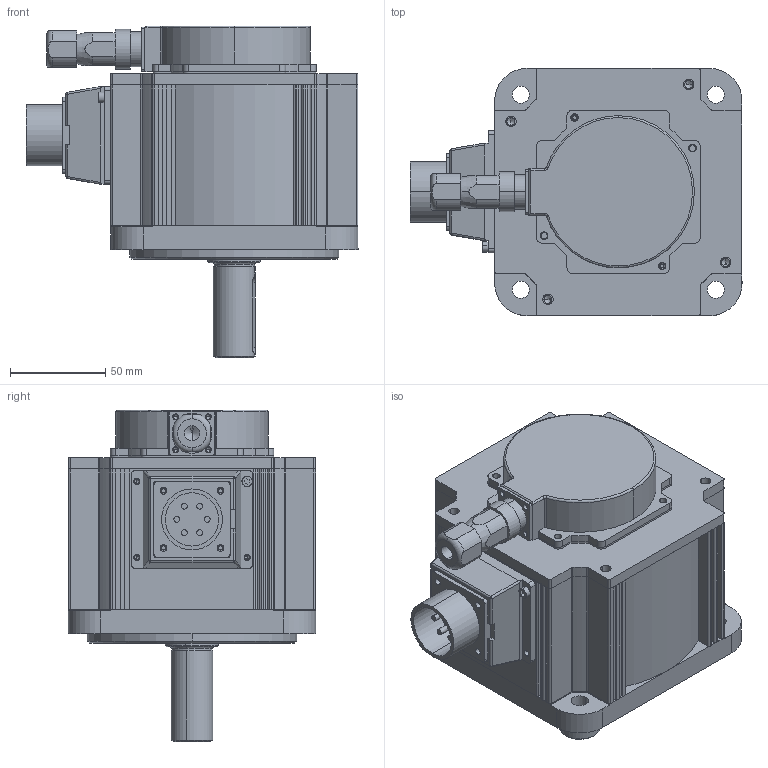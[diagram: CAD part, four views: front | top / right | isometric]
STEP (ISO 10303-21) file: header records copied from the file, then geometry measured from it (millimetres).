
FILE_DESCRIPTION (( 'STEP AP203' ), '1' );
FILE_NAME ('MS5G-130STE-CS05415B-20P8.STEP', '2018-09-03T10:19:05', ( '微软用户' ), ( '微软中国' ), 'SwSTEP 2.0', 'SolidWorks 2015', '' );
FILE_SCHEMA (( 'CONFIG_CONTROL_DESIGN' ));
Length unit declared in the file: millimetre
Products named in the file (24): GB／T276-94深沟球轴承6206-2Z; MS5-130ヶ傷裔; 130-1.0转子一（5对级）; PCB板; MS5-130綴傷裔; PCBﾍﾐ; 粣創裔; 1.0-棠詩; 130晤鎢ん裔-棠晤; MS5G-130STE-CS05415B-20P8; 迖粣; 雄薯盄瑤脣釱; 晤鎢ん棠詩; 130-1.0kw-骨架（中惯量）; 1.0-蛌粣; 130-1.0转子二（5对级）; 130-1.0转子三（5对级）; 雄薯盄瑤脣; 动力线航插密封垫; 晤鎢ん 脣芛; GB／T70．1-2000内六角圆柱头螺钉M3×10; 130-1.0kw-隅赽; GB／T276-94深沟球轴承6204; MS5-130儂旯
Assembly tree (86 placements, depth 2):
  MS5G-130STE-CS05415B-20P8
    MS5-130儂旯
    MS5-130ヶ傷裔
    MS5-130綴傷裔
    粣創裔
    130晤鎢ん裔-棠晤
    雄薯盄瑤脣釱
    雄薯盄瑤脣
    动力线航插密封垫
    晤鎢ん 脣芛
    GB／T70．1-2000内六角圆柱头螺钉M3×10
    130-1.0kw-隅赽  x12
    130-1.0转子一（5对级）
    130-1.0kw-骨架（中惯量）  x24
    130-1.0转子二（5对级）
    130-1.0转子三（5对级）
    1.0-棠詩  x30
    GB／T276-94深沟球轴承6204
    GB／T276-94深沟球轴承6206-2Z
    PCB板
    PCBﾍﾐ
    迖粣
    晤鎢ん棠詩
    1.0-蛌粣
Bounding box: 174.5 x 130 x 174.5 mm (x, y, z)
Volume: 1030483.4 mm3; surface area: 514792.2 mm2
Topology: 86 solids, 86 shells, 3330 faces, 9206 edges, 6066 vertices
Faces by surface type: plane 1897, cylinder 1106, sphere 140, cone 96, torus 91
Entity records: 67810 total; most frequent: CARTESIAN_POINT 16463, DIRECTION 10248, ORIENTED_EDGE 9722, EDGE_CURVE 4861, AXIS2_PLACEMENT_3D 4033, VERTEX_POINT 3196, EDGE_LOOP 2183, LINE 2182
